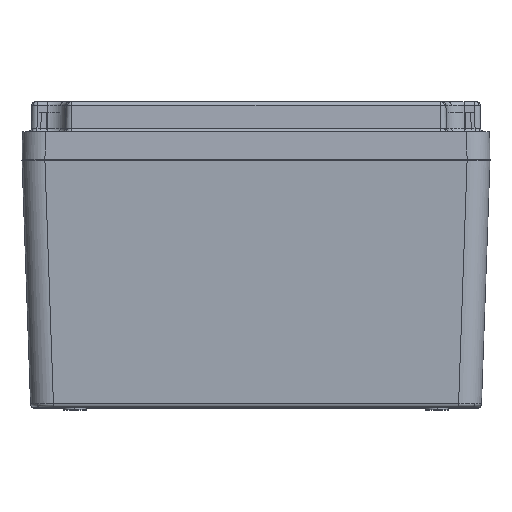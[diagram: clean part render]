
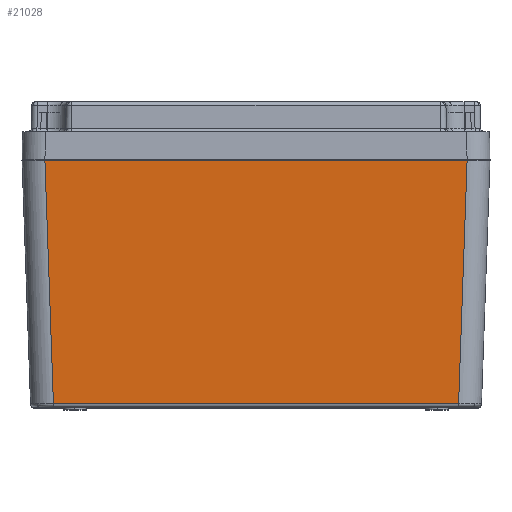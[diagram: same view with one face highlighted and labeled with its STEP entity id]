
A CAD part, top view. The second image highlights one B-rep face of the part: STEP entity #21028.
In plain terms, the highlighted planar face has unit normal (0, -0.035, 0.999).
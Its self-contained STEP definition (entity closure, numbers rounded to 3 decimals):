
#382 = DIRECTION ( 'NONE',  ( 1., 0., 0. ) ) ;
#514 = VERTEX_POINT ( 'NONE', #3627 ) ;
#1427 = DIRECTION ( 'NONE',  ( 0.035, 0.999, 0.035 ) ) ;
#2390 = AXIS2_PLACEMENT_3D ( 'NONE', #5047, #14208, #13852 ) ;
#2998 = CARTESIAN_POINT ( 'NONE',  ( -92.011, 0., 126.975 ) ) ;
#3627 = CARTESIAN_POINT ( 'NONE',  ( 92.011, 0., 126.975 ) ) ;
#4755 = CARTESIAN_POINT ( 'NONE',  ( 88.257, -106.052, 123.272 ) ) ;
#4829 = EDGE_CURVE ( 'NONE', #20431, #20941, #7009, .T. ) ;
#5047 = CARTESIAN_POINT ( 'NONE',  ( -101.975, 0., 126.975 ) ) ;
#5087 = VECTOR ( 'NONE', #382, 1000. ) ;
#5162 = VECTOR ( 'NONE', #1427, 1000. ) ;
#6121 = PLANE ( 'NONE',  #2390 ) ;
#6476 = FACE_OUTER_BOUND ( 'NONE', #14837, .T. ) ;
#6763 = ORIENTED_EDGE ( 'NONE', *, *, #21760, .T. ) ;
#7009 = LINE ( 'NONE', #20788, #14773 ) ;
#7446 = CARTESIAN_POINT ( 'NONE',  ( 88.308, -106.052, 123.272 ) ) ;
#7491 = LINE ( 'NONE', #19859, #5162 ) ;
#7825 = CARTESIAN_POINT ( 'NONE',  ( -88.308, -106.052, 123.272 ) ) ;
#8042 = VERTEX_POINT ( 'NONE', #7446 ) ;
#8780 = DIRECTION ( 'NONE',  ( 0.035, -0.999, -0.035 ) ) ;
#10095 = LINE ( 'NONE', #4755, #12083 ) ;
#10684 = LINE ( 'NONE', #20935, #5087 ) ;
#12083 = VECTOR ( 'NONE', #14989, 1000. ) ;
#13852 = DIRECTION ( 'NONE',  ( 0., -0.999, -0.035 ) ) ;
#14208 = DIRECTION ( 'NONE',  ( 0., -0.035, 0.999 ) ) ;
#14773 = VECTOR ( 'NONE', #8780, 1000. ) ;
#14837 = EDGE_LOOP ( 'NONE', ( #19825, #6763, #21639, #18406 ) ) ;
#14989 = DIRECTION ( 'NONE',  ( 1., 0., 0. ) ) ;
#15565 = EDGE_CURVE ( 'NONE', #8042, #514, #7491, .T. ) ;
#16691 = EDGE_CURVE ( 'NONE', #20431, #514, #10684, .T. ) ;
#18406 = ORIENTED_EDGE ( 'NONE', *, *, #16691, .F. ) ;
#19825 = ORIENTED_EDGE ( 'NONE', *, *, #4829, .T. ) ;
#19859 = CARTESIAN_POINT ( 'NONE',  ( 91.775, -6.758, 126.739 ) ) ;
#20431 = VERTEX_POINT ( 'NONE', #2998 ) ;
#20788 = CARTESIAN_POINT ( 'NONE',  ( -92.023, 0.347, 126.987 ) ) ;
#20935 = CARTESIAN_POINT ( 'NONE',  ( -101.975, 0., 126.975 ) ) ;
#20941 = VERTEX_POINT ( 'NONE', #7825 ) ;
#21028 = ADVANCED_FACE ( 'NONE', ( #6476 ), #6121, .T. ) ;
#21639 = ORIENTED_EDGE ( 'NONE', *, *, #15565, .T. ) ;
#21760 = EDGE_CURVE ( 'NONE', #20941, #8042, #10095, .T. ) ;
